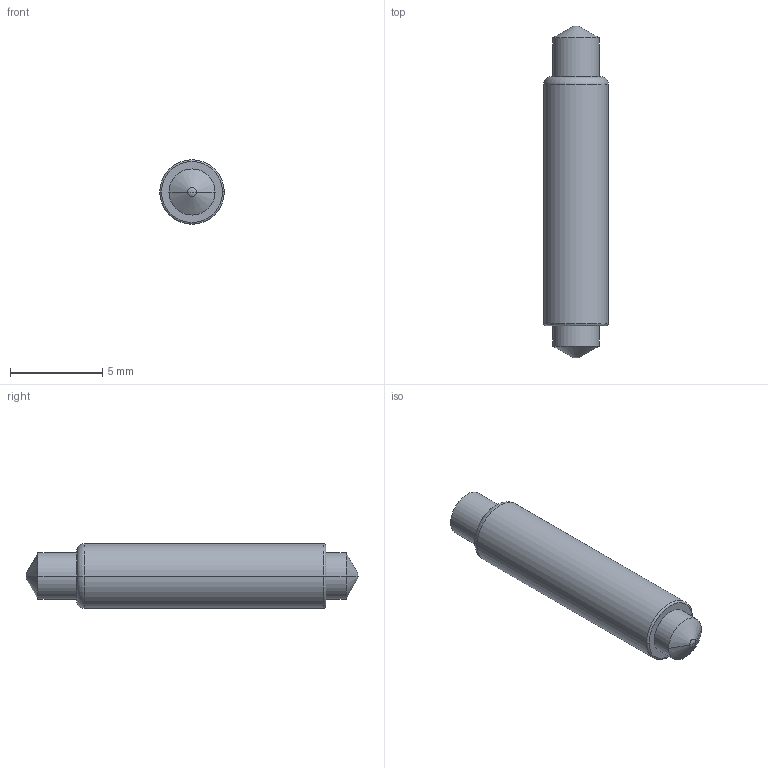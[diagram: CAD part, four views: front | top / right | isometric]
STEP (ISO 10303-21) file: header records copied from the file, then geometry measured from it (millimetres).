
FILE_DESCRIPTION((''),'2;1');
FILE_NAME('JD-SX350-110','2020-11-04T',('lenovo'),(''),'PRO/ENGINEER BY PARAMETRIC TECHNOLOGY CORPORATION, 2008380','PRO/ENGINEER BY PARAMETRIC TECHNOLOGY CORPORATION, 2008380','');
FILE_SCHEMA(('CONFIG_CONTROL_DESIGN'));
Length unit declared in the file: millimetre
Products named in the file (1): JD-SX350-110
Bounding box: 3.5 x 18 x 3.5 mm (x, y, z)
Volume: 147.6 mm3; surface area: 192 mm2
Topology: 1 solids, 1 shells, 20 faces, 42 edges, 22 vertices
Faces by surface type: cylinder 6, cone 4, sphere 4, torus 4, plane 2
Entity records: 548 total; most frequent: DIRECTION 106, CARTESIAN_POINT 80, ORIENTED_EDGE 76, AXIS2_PLACEMENT_3D 48, EDGE_CURVE 38, CIRCLE 28, VERTEX_POINT 22, EDGE_LOOP 22
